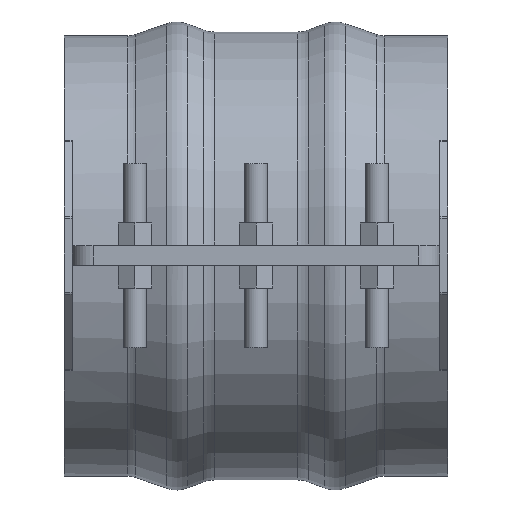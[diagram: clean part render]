
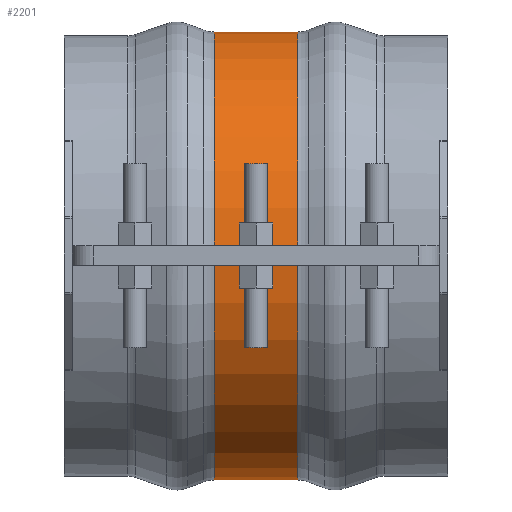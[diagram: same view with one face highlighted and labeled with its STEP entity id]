
A CAD part, top view. The second image highlights one B-rep face of the part: STEP entity #2201.
In plain terms, the highlighted cylindrical face has radius 185.655 mm (diameter 371.311 mm), a partial arc.
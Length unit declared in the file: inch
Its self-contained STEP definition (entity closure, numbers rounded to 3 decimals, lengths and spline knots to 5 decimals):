
#257=FACE_OUTER_BOUND('',#382,.T.);
#382=EDGE_LOOP('',(#1818,#1819,#1820,#1821));
#574=LINE('',#3580,#753);
#577=LINE('',#3657,#756);
#753=VECTOR('',#2893,0.3937);
#756=VECTOR('',#2904,0.3937);
#816=CIRCLE('',#2384,7.30927);
#817=CIRCLE('',#2386,7.30927);
#1017=VERTEX_POINT('',#3572);
#1018=VERTEX_POINT('',#3579);
#1029=VERTEX_POINT('',#3649);
#1030=VERTEX_POINT('',#3656);
#1290=EDGE_CURVE('',#1018,#1017,#574,.T.);
#1305=EDGE_CURVE('',#1030,#1029,#577,.T.);
#1316=EDGE_CURVE('',#1018,#1029,#816,.T.);
#1317=EDGE_CURVE('',#1017,#1030,#817,.T.);
#1818=ORIENTED_EDGE('',*,*,#1290,.T.);
#1819=ORIENTED_EDGE('',*,*,#1317,.T.);
#1820=ORIENTED_EDGE('',*,*,#1305,.T.);
#1821=ORIENTED_EDGE('',*,*,#1316,.F.);
#1994=CYLINDRICAL_SURFACE('',#2385,7.30927);
#2201=ADVANCED_FACE('',(#257),#1994,.T.);
#2384=AXIS2_PLACEMENT_3D('',#3701,#2925,#2926);
#2385=AXIS2_PLACEMENT_3D('',#3702,#2927,#2928);
#2386=AXIS2_PLACEMENT_3D('',#3703,#2929,#2930);
#2893=DIRECTION('',(-1.,0.,0.));
#2904=DIRECTION('',(1.,0.,0.));
#2925=DIRECTION('center_axis',(1.,0.,0.));
#2926=DIRECTION('ref_axis',(0.,0.,-1.));
#2927=DIRECTION('center_axis',(1.,0.,0.));
#2928=DIRECTION('ref_axis',(0.,0.,
-1.));
#2929=DIRECTION('center_axis',(1.,0.,0.));
#2930=DIRECTION('ref_axis',(0.,0.,-1.));
#3572=CARTESIAN_POINT('',(-1.35516,-0.3125,7.30259));
#3579=CARTESIAN_POINT('',(1.35516,-0.3125,7.30259));
#3580=CARTESIAN_POINT('',(0.,-0.3125,7.30259));
#3649=CARTESIAN_POINT('',(1.35516,0.3125,7.30259));
#3656=CARTESIAN_POINT('',(-1.35516,0.3125,7.30259));
#3657=CARTESIAN_POINT('',(0.,0.3125,7.30259));
#3701=CARTESIAN_POINT('Origin',(1.35516,0.,0.));
#3702=CARTESIAN_POINT('Origin',(0.,0.,0.));
#3703=CARTESIAN_POINT('Origin',(-1.35516,0.,
0.));
